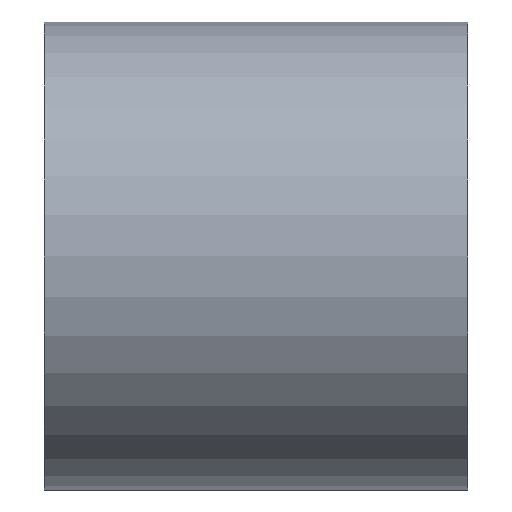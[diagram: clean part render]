
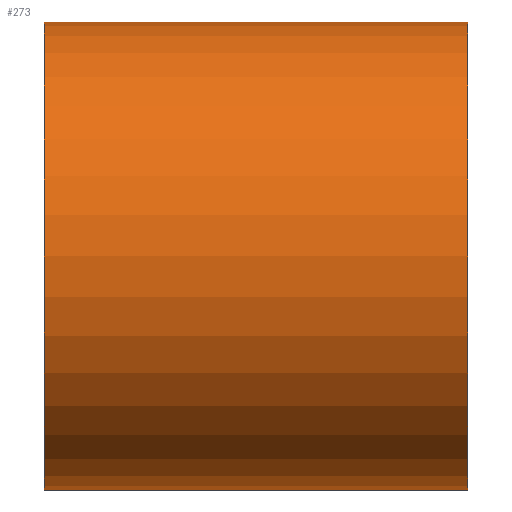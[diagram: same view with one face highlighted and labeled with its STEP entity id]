
A CAD part, front view. The second image highlights one B-rep face of the part: STEP entity #273.
In plain terms, the highlighted cylindrical face has radius 23 mm (diameter 46 mm), a partial arc.
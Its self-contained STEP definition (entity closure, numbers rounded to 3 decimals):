
#2 = CARTESIAN_POINT ( 'NONE',  ( 20.8, 0., 23. ) ) ;
#4 = VERTEX_POINT ( 'NONE', #147 ) ;
#6 = VERTEX_POINT ( 'NONE', #248 ) ;
#9 = DIRECTION ( 'NONE',  ( -1., 0., 0. ) ) ;
#28 = CARTESIAN_POINT ( 'NONE',  ( 20.8, 0., 0. ) ) ;
#32 = AXIS2_PLACEMENT_3D ( 'NONE', #28, #104, #203 ) ;
#35 = CARTESIAN_POINT ( 'NONE',  ( 20.8, 0., 23. ) ) ;
#56 = VECTOR ( 'NONE', #108, 1000. ) ;
#59 = EDGE_LOOP ( 'NONE', ( #77, #88, #233, #214 ) ) ;
#60 = CARTESIAN_POINT ( 'NONE',  ( 20.8, 0., 0. ) ) ;
#66 = CIRCLE ( 'NONE', #256, 23. ) ;
#77 = ORIENTED_EDGE ( 'NONE', *, *, #155, .F. ) ;
#88 = ORIENTED_EDGE ( 'NONE', *, *, #165, .F. ) ;
#96 = EDGE_CURVE ( 'NONE', #98, #4, #66, .T. ) ;
#98 = VERTEX_POINT ( 'NONE', #197 ) ;
#102 = DIRECTION ( 'NONE',  ( -1., 0., 0. ) ) ;
#104 = DIRECTION ( 'NONE',  ( 1., 0., 0. ) ) ;
#106 = EDGE_CURVE ( 'NONE', #249, #98, #119, .T. ) ;
#108 = DIRECTION ( 'NONE',  ( -1., 0., 0. ) ) ;
#112 = DIRECTION ( 'NONE',  ( 0., 0., -1. ) ) ;
#119 = LINE ( 'NONE', #2, #56 ) ;
#121 = FACE_OUTER_BOUND ( 'NONE', #59, .T. ) ;
#139 = VECTOR ( 'NONE', #102, 1000. ) ;
#140 = CARTESIAN_POINT ( 'NONE',  ( 20.8, 0., -23. ) ) ;
#147 = CARTESIAN_POINT ( 'NONE',  ( -20.8, 0., -23. ) ) ;
#155 = EDGE_CURVE ( 'NONE', #6, #4, #159, .T. ) ;
#159 = LINE ( 'NONE', #140, #139 ) ;
#165 = EDGE_CURVE ( 'NONE', #249, #6, #243, .T. ) ;
#171 = CARTESIAN_POINT ( 'NONE',  ( -20.8, 0., 0. ) ) ;
#190 = DIRECTION ( 'NONE',  ( 0., 0., 1. ) ) ;
#197 = CARTESIAN_POINT ( 'NONE',  ( -20.8, 0., 23. ) ) ;
#203 = DIRECTION ( 'NONE',  ( 0., 0., -1. ) ) ;
#214 = ORIENTED_EDGE ( 'NONE', *, *, #96, .T. ) ;
#223 = AXIS2_PLACEMENT_3D ( 'NONE', #60, #9, #190 ) ;
#224 = DIRECTION ( 'NONE',  ( 1., 0., 0. ) ) ;
#233 = ORIENTED_EDGE ( 'NONE', *, *, #106, .T. ) ;
#243 = CIRCLE ( 'NONE', #32, 23. ) ;
#248 = CARTESIAN_POINT ( 'NONE',  ( 20.8, 0., -23. ) ) ;
#249 = VERTEX_POINT ( 'NONE', #35 ) ;
#255 = CYLINDRICAL_SURFACE ( 'NONE', #223, 23. ) ;
#256 = AXIS2_PLACEMENT_3D ( 'NONE', #171, #224, #112 ) ;
#273 = ADVANCED_FACE ( 'NONE', ( #121 ), #255, .T. ) ;
